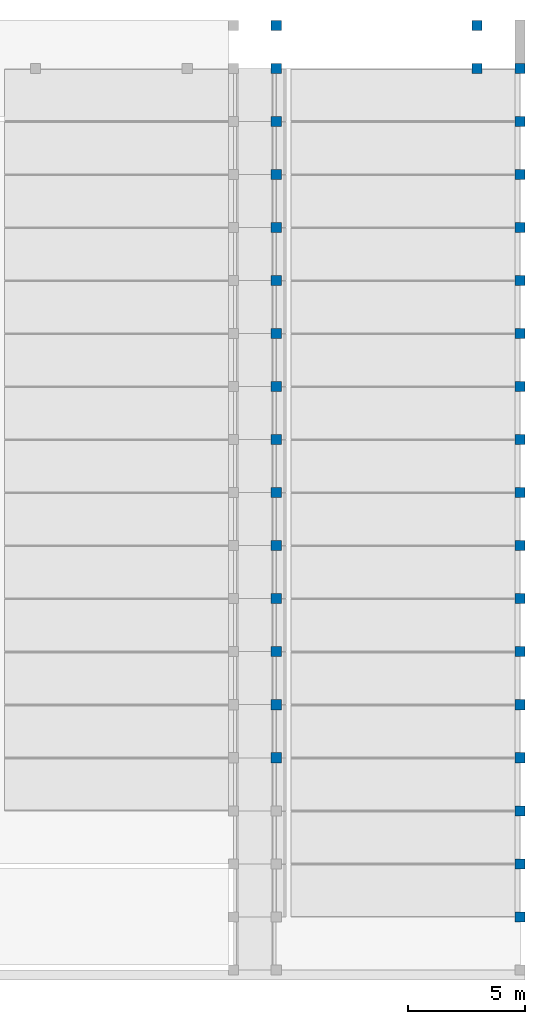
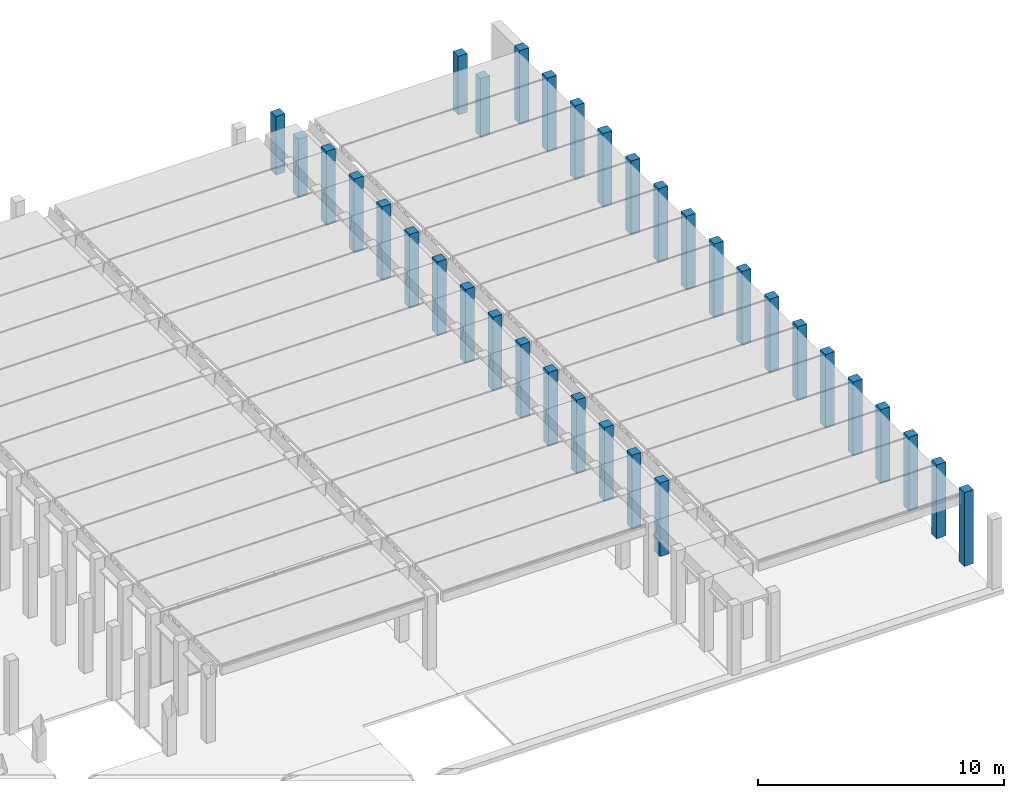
# One storey, part 2 of 25: 36 columns.
"""IFC2X3 building model written with IfcOpenShell, lengths in millimetres."""

from ifc_helpers import new_model, entity, si_unit, converted_unit, derived_unit, direction, frame, origin, origin_2d_with_axis, place, context, subcontext, project, spatial, rectangle, extrude, source, transform, mapped, material, type_object, type_shapes, element, save


model = new_model("IFC2X3")

# Units and contexts
model_context = context("Model", 3, precision=0.01, world=origin(), true_north=direction((6.12303176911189e-17, 1.0)))
body_context = subcontext(model_context, "Body", "Model", "MODEL_VIEW")
ifc_project = project(units=[si_unit("LENGTHUNIT", "METRE", prefix="MILLI"), si_unit("AREAUNIT", "SQUARE_METRE"), si_unit("VOLUMEUNIT", "CUBIC_METRE"), converted_unit("PLANEANGLEUNIT", "DEGREE", entity("IfcRatioMeasure", 0.0174532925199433), si_unit("PLANEANGLEUNIT", "RADIAN"), dimensions=[0, 0, 0, 0, 0, 0, 0]), si_unit("MASSUNIT", "GRAM", prefix="KILO"), derived_unit("MASSDENSITYUNIT", [(si_unit("MASSUNIT", "GRAM", prefix="KILO"), 1), (si_unit("LENGTHUNIT", "METRE"), -3)]), derived_unit("MOMENTOFINERTIAUNIT", [(si_unit("LENGTHUNIT", "METRE"), 4)]), si_unit("TIMEUNIT", "SECOND"), si_unit("FREQUENCYUNIT", "HERTZ"), si_unit("THERMODYNAMICTEMPERATUREUNIT", "DEGREE_CELSIUS"), derived_unit("THERMALTRANSMITTANCEUNIT", [(si_unit("MASSUNIT", "GRAM", prefix="KILO"), 1), (si_unit("THERMODYNAMICTEMPERATUREUNIT", "KELVIN"), -1), (si_unit("TIMEUNIT", "SECOND"), -3)]), derived_unit("VOLUMETRICFLOWRATEUNIT", [(si_unit("LENGTHUNIT", "METRE"), 3), (si_unit("TIMEUNIT", "SECOND"), -1)]), si_unit("ELECTRICCURRENTUNIT", "AMPERE"), si_unit("ELECTRICVOLTAGEUNIT", "VOLT"), si_unit("POWERUNIT", "WATT"), si_unit("FORCEUNIT", "NEWTON", prefix="KILO"), si_unit("ILLUMINANCEUNIT", "LUX"), si_unit("LUMINOUSFLUXUNIT", "LUMEN"), si_unit("LUMINOUSINTENSITYUNIT", "CANDELA"), derived_unit("USERDEFINED", [(si_unit("MASSUNIT", "GRAM", prefix="KILO"), -1), (si_unit("LENGTHUNIT", "METRE"), -2), (si_unit("TIMEUNIT", "SECOND"), 3), (si_unit("LUMINOUSFLUXUNIT", "LUMEN"), 1)]), derived_unit("LINEARVELOCITYUNIT", [(si_unit("LENGTHUNIT", "METRE"), 1), (si_unit("TIMEUNIT", "SECOND"), -1)]), si_unit("PRESSUREUNIT", "PASCAL"), derived_unit("USERDEFINED", [(si_unit("LENGTHUNIT", "METRE"), -2), (si_unit("MASSUNIT", "GRAM", prefix="KILO"), 1), (si_unit("TIMEUNIT", "SECOND"), -2)]), derived_unit("LINEARFORCEUNIT", [(si_unit("MASSUNIT", "GRAM", prefix="KILO"), 1), (si_unit("LENGTHUNIT", "METRE"), 1), (si_unit("TIMEUNIT", "SECOND"), -2), (si_unit("LENGTHUNIT", "METRE"), -1)]), derived_unit("PLANARFORCEUNIT", [(si_unit("MASSUNIT", "GRAM", prefix="KILO"), 1), (si_unit("LENGTHUNIT", "METRE"), 1), (si_unit("TIMEUNIT", "SECOND"), -2), (si_unit("LENGTHUNIT", "METRE"), -2)])], contexts=[model_context])

# Site, building, storey
site_placement = place(None, frame((10627.5135316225, 21939.0796949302, 0.0)))
site = spatial("IfcSite", under=ifc_project, at=site_placement, Name="Default", CompositionType="ELEMENT")
building_placement = place(site_placement, origin())
building = spatial("IfcBuilding", under=site, at=building_placement, CompositionType="ELEMENT")
storey_placement = place(building_placement, origin())
storey = spatial("IfcBuildingStorey", under=building, at=storey_placement, Name="RDC", CompositionType="ELEMENT", Elevation=0.0)

# Columns
ifc_material = material(Name="Concrete, Precast Smooth, Light Grey")
column_type_1 = type_object("IfcColumnType", Name="M_Precast-Square Column:430x430", PredefinedType="COLUMN", material=ifc_material)
shared_shape_1 = source(origin(), body_context, "Body", "SweptSolid", [
    extrude(rectangle(XDim=430.0, YDim=430.0, at=origin_2d_with_axis()), frame((0.0, 0.0, 0.0), z_axis=(0.0, 0.0, 1.0), x_axis=(0.0, -1.0, 0.0)), (0.0, 0.0, 1.0), 2910.0),
])
type_shapes(column_type_1, [shared_shape_1])
column_placement = place(storey_placement, frame((53402.4864683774, 16480.9203050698, 0.0), z_axis=(0.0, 0.0, 1.0), x_axis=(-1.0, 0.0, 0.0)))
element("IfcColumn", 1, at=column_placement, inside=storey, type_object=column_type_1, material=ifc_material, Name="M_Precast-Square Column:430x430", ObjectType="M_Precast-Square Column:430x430", context=body_context, shape_type="MappedRepresentation", body=[
    mapped(shared_shape_1, transform((0.0, 0.0, 0.0), scale=1.0)),
])
for number, where, name in (
    (2, (53402.4864683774, 18310.9203050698, 0.0), "M_Precast-Square Column:430x430"),
    (3, (61952.4864683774, 16480.9203050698, 0.0), "M_Precast-Square Column:430x430"),
    (4, (61952.4864683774, 18310.9203050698, 0.0), "M_Precast-Square Column:430x430"),
):
    element("IfcColumn", number, at=place(storey_placement, frame(where)), inside=storey, type_object=column_type_1, material=ifc_material, Name=name, ObjectType="M_Precast-Square Column:430x430", context=body_context, shape_type="MappedRepresentation", body=[
        mapped(shared_shape_1, transform((0.0, 0.0, 0.0), scale=1.0)),
    ])
column_type_2 = type_object("IfcColumnType", Name="M_Precast-Square Column:430x430 Main floor", PredefinedType="COLUMN", material=ifc_material)
shared_shape_2 = source(origin(), body_context, "Body", "SweptSolid", [
    extrude(rectangle(XDim=430.0, YDim=430.0, at=origin_2d_with_axis()), frame((0.0, 0.0, 0.0), z_axis=(0.0, 0.0, 1.0), x_axis=(0.0, -1.0, 0.0)), (0.0, 0.0, 1.0), 3660.0),
])
type_shapes(column_type_2, [shared_shape_2])
for number, where, name in (
    (5, (63782.4864683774, 14220.9203050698, 0.0), "M_Precast-Square Column:430x430 Main floor"),
    (6, (63782.4864683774, 11960.9203050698, 0.0), "M_Precast-Square Column:430x430 Main floor"),
    (7, (53402.4864683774, 14220.9203050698, 0.0), "M_Precast-Square Column:430x430 Main floor"),
    (8, (53402.4864683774, 11960.9203050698, 0.0), "M_Precast-Square Column:430x430 Main floor"),
    (9, (53402.4864683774, 9700.92030506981, 0.0), "M_Precast-Square Column:430x430 Main floor"),
    (10, (63782.4864683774, 9700.92030506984, 0.0), "M_Precast-Square Column:430x430 Main floor"),
    (11, (53402.4864683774, 7440.92030506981, 0.0), "M_Precast-Square Column:430x430 Main floor"),
    (12, (63782.4864683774, 7440.92030506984, 0.0), "M_Precast-Square Column:430x430 Main floor"),
    (13, (53402.4864683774, 5180.92030506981, 0.0), "M_Precast-Square Column:430x430 Main floor"),
    (14, (63782.4864683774, 5180.92030506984, 0.0), "M_Precast-Square Column:430x430 Main floor"),
    (15, (53402.4864683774, 2920.92030506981, 0.0), "M_Precast-Square Column:430x430 Main floor"),
    (16, (63782.4864683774, 2920.92030506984, 0.0), "M_Precast-Square Column:430x430 Main floor"),
    (17, (53402.4864683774, 660.920305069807, 0.0), "M_Precast-Square Column:430x430 Main floor"),
    (18, (63782.4864683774, 660.92030506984, 0.0), "M_Precast-Square Column:430x430 Main floor"),
    (19, (53402.4864683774, -1599.07969493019, 0.0), "M_Precast-Square Column:430x430 Main floor"),
    (20, (63782.4864683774, -1599.07969493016, 0.0), "M_Precast-Square Column:430x430 Main floor"),
    (21, (53402.4864683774, -3859.07969493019, 0.0), "M_Precast-Square Column:430x430 Main floor"),
    (22, (63782.4864683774, -3859.07969493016, 0.0), "M_Precast-Square Column:430x430 Main floor"),
    (23, (53402.4864683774, -6119.07969493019, 0.0), "M_Precast-Square Column:430x430 Main floor"),
    (24, (63782.4864683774, -6119.07969493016, 0.0), "M_Precast-Square Column:430x430 Main floor"),
    (25, (53402.4864683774, -8379.07969493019, 0.0), "M_Precast-Square Column:430x430 Main floor"),
    (26, (63782.4864683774, -8379.07969493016, 0.0), "M_Precast-Square Column:430x430 Main floor"),
    (27, (53402.4864683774, -10639.0796949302, 0.0), "M_Precast-Square Column:430x430 Main floor"),
    (28, (63782.4864683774, -10639.0796949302, 0.0), "M_Precast-Square Column:430x430 Main floor"),
    (29, (53402.4864683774, -12899.0796949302, 0.0), "M_Precast-Square Column:430x430 Main floor"),
    (30, (63782.4864683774, -12899.0796949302, 0.0), "M_Precast-Square Column:430x430 Main floor"),
    (31, (63782.4864683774, -15159.0796949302, 0.0), "M_Precast-Square Column:430x430 Main floor"),
    (32, (63782.4864683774, -17419.0796949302, 0.0), "M_Precast-Square Column:430x430 Main floor"),
    (33, (63782.4864683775, -19679.0796949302, 0.0), "M_Precast-Square Column:430x430 Main floor"),
    (34, (63782.4864683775, -19679.0796949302, 0.0), "M_Precast-Square Column:430x430 Main floor"),
    (35, (63782.4864683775, -19679.0796949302, 0.0), "M_Precast-Square Column:430x430 Main floor"),
    (36, (63782.4864683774, 16480.9203050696, 0.0), "M_Precast-Square Column:430x430 Main floor"),
):
    element("IfcColumn", number, at=place(storey_placement, frame(where)), inside=storey, type_object=column_type_2, material=ifc_material, Name=name, ObjectType="M_Precast-Square Column:430x430 Main floor", context=body_context, shape_type="MappedRepresentation", body=[
        mapped(shared_shape_2, transform((0.0, 0.0, 0.0), scale=1.0)),
    ])

save(model, "model.ifc")
